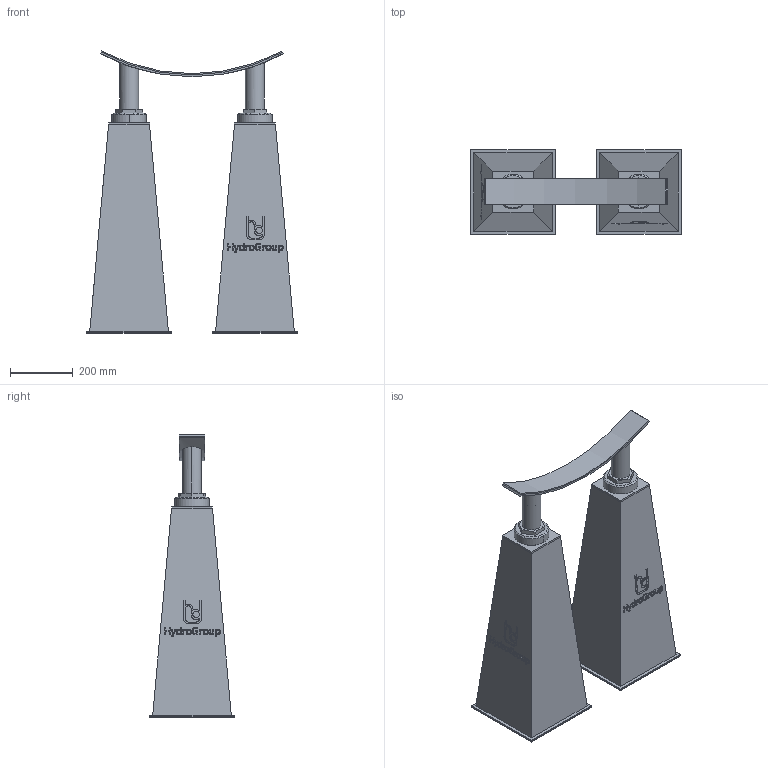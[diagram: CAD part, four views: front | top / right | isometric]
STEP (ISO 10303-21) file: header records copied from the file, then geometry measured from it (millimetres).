
FILE_DESCRIPTION(('STEP AP214'),'1');
FILE_NAME('RSRFE-I-DUO_DN1200.stp','2018-06-27T13:55:09',(' '),(' '),'Spatial InterOp 3D',' ',' ');
FILE_SCHEMA(('automotive_design'));
Length unit declared in the file: millimetre
Products named in the file (10): 1; 2; 3; 4; 5; 6; 7; 8; 9; 10
Bounding box: 670 x 270 x 896.7 mm (x, y, z)
Volume: 52992836.2 mm3; surface area: 1933517.3 mm2
Topology: 10 solids, 11 shells, 417 faces, 1036 edges, 680 vertices
Faces by surface type: plane 272, cylinder 67, extrusion 48, cone 30
Entity records: 17391 total; most frequent: CARTESIAN_POINT 4011, ORIENTED_EDGE 2072, DIRECTION 1866, EDGE_CURVE 1036, VECTOR 804, LINE 756, VERTEX_POINT 680, AXIS2_PLACEMENT_3D 531
